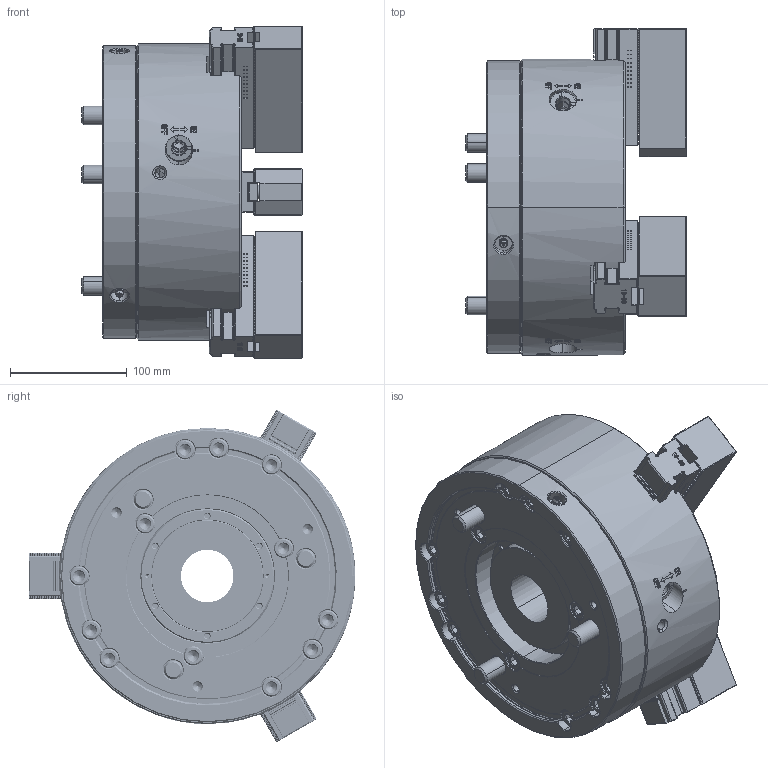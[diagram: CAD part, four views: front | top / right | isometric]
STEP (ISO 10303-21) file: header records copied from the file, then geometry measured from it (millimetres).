
FILE_DESCRIPTION (( 'STEP AP214' ), '1' );
FILE_NAME ('QJR10_61P261582-4_UC.STEP', '2026-03-12T06:12:22', ( '' ), ( '' ), 'SwSTEP 2.0', 'SolidWorks 2022', '' );
FILE_SCHEMA (( 'AUTOMOTIVE_DESIGN' ));
Length unit declared in the file: millimetre
Products named in the file (7): DT1_QJR10_BASE^DT1_QJR10; DT1_QJR10_SOFTJAW^DT1_QJR10; Copy of 0030112035^DT1_QJR10; QJR10_61P261582-4_UC; DT1_QJR10_BASEJAW^DT1_QJR10; DT1_QJR10_M16x120^DT1_QJR10; DT1_QJR10_DRAWNUT^DT1_QJR10
Assembly tree (17 placements, depth 2):
  QJR10_61P261582-4_UC
    DT1_QJR10_DRAWNUT^DT1_QJR10
    DT1_QJR10_SOFTJAW^DT1_QJR10  x3
    DT1_QJR10_M16x120^DT1_QJR10  x3
    DT1_QJR10_BASEJAW^DT1_QJR10  x3
    DT1_QJR10_BASE^DT1_QJR10
    Copy of 0030112035^DT1_QJR10  x6
Bounding box: 189.3 x 280.2 x 284.75 mm (x, y, z)
Volume: 5787162.2 mm3; surface area: 536142.1 mm2
Topology: 17 solids, 71 shells, 8460 faces, 23326 edges, 15285 vertices
Faces by surface type: plane 5473, cylinder 1172, bspline 1075, cone 665, torus 63, sphere 12
Entity records: 226653 total; most frequent: CARTESIAN_POINT 100066, ORIENTED_EDGE 28680, DIRECTION 21678, EDGE_CURVE 14340, VERTEX_POINT 9436, VECTOR 9304, LINE 9304, AXIS2_PLACEMENT_3D 6187
